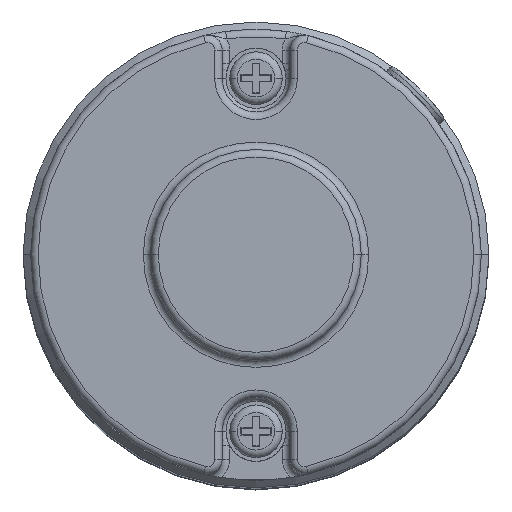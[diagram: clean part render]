
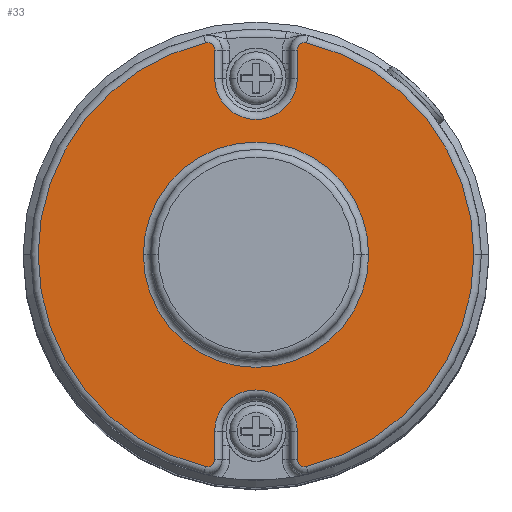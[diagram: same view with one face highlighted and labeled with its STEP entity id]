
A CAD part, top view. The second image highlights one B-rep face of the part: STEP entity #33.
In plain terms, the highlighted planar face has unit normal (0, 0, 1).
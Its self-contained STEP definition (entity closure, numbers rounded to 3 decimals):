
#25 = EDGE_CURVE ( 'NONE', #6634, #6717, #4107, .T. ) ;
#33 = ADVANCED_FACE ( 'NONE', ( #5129, #1828 ), #7622, .T. ) ;
#221 = CIRCLE ( 'NONE', #3176, 29. ) ;
#233 = CARTESIAN_POINT ( 'NONE',  ( 6.5, 27.235, 20.5 ) ) ;
#240 = CIRCLE ( 'NONE', #1311, 1. ) ;
#307 = LINE ( 'NONE', #2862, #2360 ) ;
#343 = DIRECTION ( 'NONE',  ( 1., 0., 0. ) ) ;
#411 = DIRECTION ( 'NONE',  ( 0., -1., 0. ) ) ;
#474 = CARTESIAN_POINT ( 'NONE',  ( -5.5, -23.5, 20.5 ) ) ;
#579 = CARTESIAN_POINT ( 'NONE',  ( 5.5, 27.235, 20.5 ) ) ;
#829 = ORIENTED_EDGE ( 'NONE', *, *, #2811, .T. ) ;
#881 = EDGE_CURVE ( 'NONE', #3239, #6105, #307, .T. ) ;
#904 = AXIS2_PLACEMENT_3D ( 'NONE', #6740, #3518, #4920 ) ;
#954 = LINE ( 'NONE', #6061, #3967 ) ;
#989 = EDGE_CURVE ( 'NONE', #6203, #3306, #7569, .T. ) ;
#1117 = DIRECTION ( 'NONE',  ( 1., 0., 0. ) ) ;
#1125 = EDGE_CURVE ( 'NONE', #7272, #6813, #5884, .T. ) ;
#1169 = DIRECTION ( 'NONE',  ( 0., 1., 0. ) ) ;
#1197 = DIRECTION ( 'NONE',  ( 0., 0., 1. ) ) ;
#1238 = CARTESIAN_POINT ( 'NONE',  ( -5.5, 23.5, 20.5 ) ) ;
#1269 = CARTESIAN_POINT ( 'NONE',  ( 0., 0., 20.5 ) ) ;
#1291 = EDGE_CURVE ( 'NONE', #7637, #7404, #221, .T. ) ;
#1311 = AXIS2_PLACEMENT_3D ( 'NONE', #3280, #6543, #5279 ) ;
#1373 = CARTESIAN_POINT ( 'NONE',  ( 0., 0., 20.5 ) ) ;
#1441 = AXIS2_PLACEMENT_3D ( 'NONE', #3531, #2902, #343 ) ;
#1572 = AXIS2_PLACEMENT_3D ( 'NONE', #1269, #1197, #6930 ) ;
#1675 = EDGE_CURVE ( 'NONE', #1985, #2037, #2589, .T. ) ;
#1736 = EDGE_CURVE ( 'NONE', #5505, #2038, #5080, .T. ) ;
#1800 = DIRECTION ( 'NONE',  ( 0., 0., 1. ) ) ;
#1828 = FACE_BOUND ( 'NONE', #3929, .T. ) ;
#1888 = DIRECTION ( 'NONE',  ( 0., 0., -1. ) ) ;
#1938 = CARTESIAN_POINT ( 'NONE',  ( -5.5, -23.5, 20.5 ) ) ;
#1954 = VECTOR ( 'NONE', #6382, 1000. ) ;
#1985 = VERTEX_POINT ( 'NONE', #1238 ) ;
#2037 = VERTEX_POINT ( 'NONE', #8339 ) ;
#2038 = VERTEX_POINT ( 'NONE', #579 ) ;
#2078 = ORIENTED_EDGE ( 'NONE', *, *, #1736, .T. ) ;
#2136 = CARTESIAN_POINT ( 'NONE',  ( 15., 0., 20.5 ) ) ;
#2154 = ORIENTED_EDGE ( 'NONE', *, *, #3557, .T. ) ;
#2226 = AXIS2_PLACEMENT_3D ( 'NONE', #7075, #1800, #6954 ) ;
#2237 = DIRECTION ( 'NONE',  ( 0., -1., 0. ) ) ;
#2360 = VECTOR ( 'NONE', #2237, 1000. ) ;
#2422 = ORIENTED_EDGE ( 'NONE', *, *, #2878, .T. ) ;
#2589 = LINE ( 'NONE', #8227, #3040 ) ;
#2715 = CARTESIAN_POINT ( 'NONE',  ( 5.5, -27.235, 20.5 ) ) ;
#2811 = EDGE_CURVE ( 'NONE', #3306, #3239, #4947, .T. ) ;
#2862 = CARTESIAN_POINT ( 'NONE',  ( 5.5, -27.235, 20.5 ) ) ;
#2878 = EDGE_CURVE ( 'NONE', #7404, #5505, #6566, .T. ) ;
#2890 = CARTESIAN_POINT ( 'NONE',  ( 0., 0., 20.5 ) ) ;
#2902 = DIRECTION ( 'NONE',  ( 0., 0., 1. ) ) ;
#2945 = CARTESIAN_POINT ( 'NONE',  ( -15., 0., 20.5 ) ) ;
#2976 = CARTESIAN_POINT ( 'NONE',  ( -6.5, -27.235, 20.5 ) ) ;
#3036 = EDGE_CURVE ( 'NONE', #6105, #7637, #240, .T. ) ;
#3040 = VECTOR ( 'NONE', #1169, 1000. ) ;
#3041 = ORIENTED_EDGE ( 'NONE', *, *, #7840, .T. ) ;
#3056 = CARTESIAN_POINT ( 'NONE',  ( -6.732, 28.208, 20.5 ) ) ;
#3132 = CARTESIAN_POINT ( 'NONE',  ( 0., 0., 20.5 ) ) ;
#3149 = CARTESIAN_POINT ( 'NONE',  ( 0., 23.5, 20.5 ) ) ;
#3176 = AXIS2_PLACEMENT_3D ( 'NONE', #1373, #3427, #6646 ) ;
#3225 = EDGE_CURVE ( 'NONE', #2037, #7272, #8060, .T. ) ;
#3239 = VERTEX_POINT ( 'NONE', #6120 ) ;
#3280 = CARTESIAN_POINT ( 'NONE',  ( 6.5, -27.235, 20.5 ) ) ;
#3306 = VERTEX_POINT ( 'NONE', #474 ) ;
#3383 = ORIENTED_EDGE ( 'NONE', *, *, #1675, .T. ) ;
#3427 = DIRECTION ( 'NONE',  ( 0., 0., 1. ) ) ;
#3433 = DIRECTION ( 'NONE',  ( 0., 0., -1. ) ) ;
#3451 = ORIENTED_EDGE ( 'NONE', *, *, #25, .T. ) ;
#3518 = DIRECTION ( 'NONE',  ( 0., 0., -1. ) ) ;
#3531 = CARTESIAN_POINT ( 'NONE',  ( -6.5, 27.235, 20.5 ) ) ;
#3557 = EDGE_CURVE ( 'NONE', #6717, #6634, #7187, .T. ) ;
#3615 = AXIS2_PLACEMENT_3D ( 'NONE', #2976, #6781, #5708 ) ;
#3629 = CARTESIAN_POINT ( 'NONE',  ( 6.732, 28.208, 20.5 ) ) ;
#3726 = DIRECTION ( 'NONE',  ( 1., 0., 0. ) ) ;
#3908 = DIRECTION ( 'NONE',  ( 1., 0., 0. ) ) ;
#3929 = EDGE_LOOP ( 'NONE', ( #2154, #3451 ) ) ;
#3967 = VECTOR ( 'NONE', #411, 1000. ) ;
#4016 = DIRECTION ( 'NONE',  ( 1., 0., 0. ) ) ;
#4107 = CIRCLE ( 'NONE', #7214, 15. ) ;
#4124 = AXIS2_PLACEMENT_3D ( 'NONE', #233, #6602, #4016 ) ;
#4150 = CIRCLE ( 'NONE', #3615, 1. ) ;
#4253 = AXIS2_PLACEMENT_3D ( 'NONE', #3132, #6313, #1117 ) ;
#4366 = EDGE_CURVE ( 'NONE', #2038, #7474, #954, .T. ) ;
#4496 = CIRCLE ( 'NONE', #5042, 5.5 ) ;
#4756 = ORIENTED_EDGE ( 'NONE', *, *, #4366, .T. ) ;
#4769 = CARTESIAN_POINT ( 'NONE',  ( 5.5, 23.5, 20.5 ) ) ;
#4847 = ORIENTED_EDGE ( 'NONE', *, *, #1291, .T. ) ;
#4920 = DIRECTION ( 'NONE',  ( 1., 0., 0. ) ) ;
#4947 = CIRCLE ( 'NONE', #904, 5.5 ) ;
#4957 = ORIENTED_EDGE ( 'NONE', *, *, #3036, .T. ) ;
#5039 = DIRECTION ( 'NONE',  ( 0., 0., -1. ) ) ;
#5042 = AXIS2_PLACEMENT_3D ( 'NONE', #3149, #1888, #3908 ) ;
#5080 = CIRCLE ( 'NONE', #4124, 1. ) ;
#5129 = FACE_OUTER_BOUND ( 'NONE', #5677, .T. ) ;
#5279 = DIRECTION ( 'NONE',  ( 1., 0., 0. ) ) ;
#5505 = VERTEX_POINT ( 'NONE', #3629 ) ;
#5677 = EDGE_LOOP ( 'NONE', ( #6157, #4957, #4847, #2422, #2078, #4756, #5905, #3383, #6841, #5906, #3041, #7280, #829 ) ) ;
#5708 = DIRECTION ( 'NONE',  ( 1., 0., 0. ) ) ;
#5884 = CIRCLE ( 'NONE', #2226, 29. ) ;
#5905 = ORIENTED_EDGE ( 'NONE', *, *, #7033, .T. ) ;
#5906 = ORIENTED_EDGE ( 'NONE', *, *, #1125, .T. ) ;
#5914 = CARTESIAN_POINT ( 'NONE',  ( 6.732, -28.208, 20.5 ) ) ;
#6061 = CARTESIAN_POINT ( 'NONE',  ( 5.5, 23.5, 20.5 ) ) ;
#6105 = VERTEX_POINT ( 'NONE', #2715 ) ;
#6120 = CARTESIAN_POINT ( 'NONE',  ( 5.5, -23.5, 20.5 ) ) ;
#6157 = ORIENTED_EDGE ( 'NONE', *, *, #881, .T. ) ;
#6203 = VERTEX_POINT ( 'NONE', #7415 ) ;
#6313 = DIRECTION ( 'NONE',  ( 0., 0., 1. ) ) ;
#6382 = DIRECTION ( 'NONE',  ( 0., 1., 0. ) ) ;
#6543 = DIRECTION ( 'NONE',  ( 0., 0., 1. ) ) ;
#6566 = CIRCLE ( 'NONE', #1572, 29. ) ;
#6602 = DIRECTION ( 'NONE',  ( 0., 0., 1. ) ) ;
#6615 = DIRECTION ( 'NONE',  ( 1., 0., 0. ) ) ;
#6634 = VERTEX_POINT ( 'NONE', #2945 ) ;
#6646 = DIRECTION ( 'NONE',  ( 1., 0., 0. ) ) ;
#6717 = VERTEX_POINT ( 'NONE', #2136 ) ;
#6740 = CARTESIAN_POINT ( 'NONE',  ( 0., -23.5, 20.5 ) ) ;
#6780 = CARTESIAN_POINT ( 'NONE',  ( -6.732, -28.208, 20.5 ) ) ;
#6781 = DIRECTION ( 'NONE',  ( 0., 0., 1. ) ) ;
#6813 = VERTEX_POINT ( 'NONE', #6780 ) ;
#6841 = ORIENTED_EDGE ( 'NONE', *, *, #3225, .T. ) ;
#6897 = CARTESIAN_POINT ( 'NONE',  ( 0., 0., 20.5 ) ) ;
#6930 = DIRECTION ( 'NONE',  ( 1., 0., 0. ) ) ;
#6954 = DIRECTION ( 'NONE',  ( 1., 0., 0. ) ) ;
#7033 = EDGE_CURVE ( 'NONE', #7474, #1985, #4496, .T. ) ;
#7075 = CARTESIAN_POINT ( 'NONE',  ( 0., 0., 20.5 ) ) ;
#7187 = CIRCLE ( 'NONE', #7873, 15. ) ;
#7214 = AXIS2_PLACEMENT_3D ( 'NONE', #6897, #5039, #3726 ) ;
#7272 = VERTEX_POINT ( 'NONE', #3056 ) ;
#7280 = ORIENTED_EDGE ( 'NONE', *, *, #989, .T. ) ;
#7404 = VERTEX_POINT ( 'NONE', #7868 ) ;
#7415 = CARTESIAN_POINT ( 'NONE',  ( -5.5, -27.235, 20.5 ) ) ;
#7474 = VERTEX_POINT ( 'NONE', #4769 ) ;
#7569 = LINE ( 'NONE', #1938, #1954 ) ;
#7622 = PLANE ( 'NONE',  #4253 ) ;
#7637 = VERTEX_POINT ( 'NONE', #5914 ) ;
#7840 = EDGE_CURVE ( 'NONE', #6813, #6203, #4150, .T. ) ;
#7868 = CARTESIAN_POINT ( 'NONE',  ( 29., 0., 20.5 ) ) ;
#7873 = AXIS2_PLACEMENT_3D ( 'NONE', #2890, #3433, #6615 ) ;
#8060 = CIRCLE ( 'NONE', #1441, 1. ) ;
#8227 = CARTESIAN_POINT ( 'NONE',  ( -5.5, 27.235, 20.5 ) ) ;
#8339 = CARTESIAN_POINT ( 'NONE',  ( -5.5, 27.235, 20.5 ) ) ;
